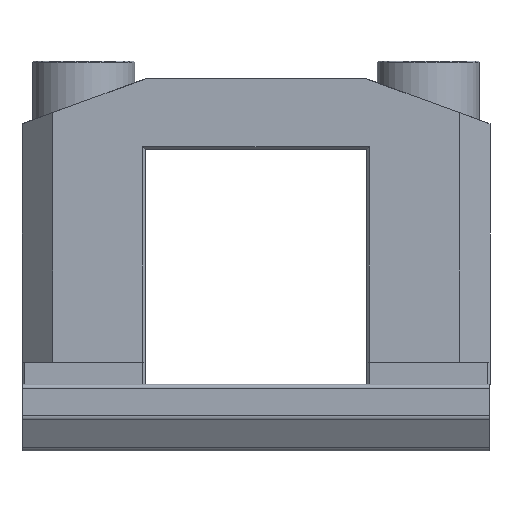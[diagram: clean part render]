
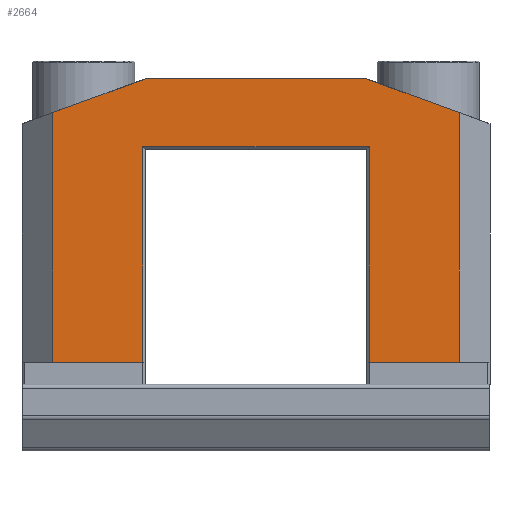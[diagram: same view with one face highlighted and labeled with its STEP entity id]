
A CAD part, front view. The second image highlights one B-rep face of the part: STEP entity #2664.
In plain terms, the highlighted planar face has unit normal (0, -1, 0).
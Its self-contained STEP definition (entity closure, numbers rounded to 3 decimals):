
#137 = EDGE_CURVE ( 'NONE', #8458, #3501, #10034, .T. ) ;
#756 = LINE ( 'NONE', #2490, #2122 ) ;
#931 = DIRECTION ( 'NONE',  ( 0., 0., -1. ) ) ;
#975 = LINE ( 'NONE', #9175, #9149 ) ;
#1197 = ORIENTED_EDGE ( 'NONE', *, *, #6299, .T. ) ;
#1372 = ORIENTED_EDGE ( 'NONE', *, *, #4834, .T. ) ;
#1387 = EDGE_CURVE ( 'NONE', #6551, #5615, #2043, .T. ) ;
#1464 = LINE ( 'NONE', #7890, #2940 ) ;
#1470 = VECTOR ( 'NONE', #2862, 1000. ) ;
#1513 = VERTEX_POINT ( 'NONE', #8638 ) ;
#1517 = CARTESIAN_POINT ( 'NONE',  ( -17.271, 22.779, -10.6 ) ) ;
#1524 = CARTESIAN_POINT ( 'NONE',  ( -17.271, 22.779, 6.9 ) ) ;
#1605 = DIRECTION ( 'NONE',  ( 0., 0., 1. ) ) ;
#1666 = CARTESIAN_POINT ( 'NONE',  ( -35.471, 22.779, 12.4 ) ) ;
#1723 = EDGE_CURVE ( 'NONE', #7347, #2591, #4457, .T. ) ;
#1834 = CARTESIAN_POINT ( 'NONE',  ( 0., 22.779, 0. ) ) ;
#1984 = LINE ( 'NONE', #6376, #5804 ) ;
#1995 = EDGE_CURVE ( 'NONE', #6551, #1513, #1984, .T. ) ;
#2043 = LINE ( 'NONE', #5526, #3883 ) ;
#2122 = VECTOR ( 'NONE', #8725, 1000. ) ;
#2465 = LINE ( 'NONE', #6977, #4942 ) ;
#2486 = EDGE_CURVE ( 'NONE', #10049, #5615, #2465, .T. ) ;
#2490 = CARTESIAN_POINT ( 'NONE',  ( -17.471, 22.779, 6.9 ) ) ;
#2591 = VERTEX_POINT ( 'NONE', #1666 ) ;
#2664 = ADVANCED_FACE ( 'NONE', ( #9898 ), #4937, .T. ) ;
#2735 = ORIENTED_EDGE ( 'NONE', *, *, #1723, .T. ) ;
#2862 = DIRECTION ( 'NONE',  ( -1., 0., 0. ) ) ;
#2940 = VECTOR ( 'NONE', #1605, 1000. ) ;
#3261 = EDGE_CURVE ( 'NONE', #8982, #7347, #975, .T. ) ;
#3270 = CARTESIAN_POINT ( 'NONE',  ( -9.971, 22.779, -10.6 ) ) ;
#3293 = EDGE_CURVE ( 'NONE', #7561, #3501, #8260, .T. ) ;
#3382 = DIRECTION ( 'NONE',  ( 0., 0., -1. ) ) ;
#3501 = VERTEX_POINT ( 'NONE', #1517 ) ;
#3615 = CARTESIAN_POINT ( 'NONE',  ( -42.971, 22.779, -10.6 ) ) ;
#3883 = VECTOR ( 'NONE', #7826, 1000. ) ;
#3895 = CARTESIAN_POINT ( 'NONE',  ( -9.971, 22.779, 9.67 ) ) ;
#3986 = DIRECTION ( 'NONE',  ( -0.94, 0., -0.342 ) ) ;
#4196 = EDGE_CURVE ( 'NONE', #7561, #8982, #1464, .T. ) ;
#4267 = LINE ( 'NONE', #6295, #5495 ) ;
#4457 = LINE ( 'NONE', #7471, #7038 ) ;
#4625 = CARTESIAN_POINT ( 'NONE',  ( -17.471, 22.779, 12.4 ) ) ;
#4834 = EDGE_CURVE ( 'NONE', #1513, #8458, #756, .T. ) ;
#4937 = PLANE ( 'NONE',  #7676 ) ;
#4942 = VECTOR ( 'NONE', #7795, 1000. ) ;
#5210 = ORIENTED_EDGE ( 'NONE', *, *, #1387, .F. ) ;
#5495 = VECTOR ( 'NONE', #3986, 1000. ) ;
#5526 = CARTESIAN_POINT ( 'NONE',  ( -7.47, 22.779, -10.6 ) ) ;
#5615 = VERTEX_POINT ( 'NONE', #3615 ) ;
#5661 = CARTESIAN_POINT ( 'NONE',  ( -17.271, 22.779, -10.6 ) ) ;
#5804 = VECTOR ( 'NONE', #7884, 1000. ) ;
#6295 = CARTESIAN_POINT ( 'NONE',  ( -35.471, 22.779, 12.4 ) ) ;
#6299 = EDGE_CURVE ( 'NONE', #2591, #10049, #4267, .T. ) ;
#6376 = CARTESIAN_POINT ( 'NONE',  ( -35.671, 22.779, 6.7 ) ) ;
#6551 = VERTEX_POINT ( 'NONE', #9080 ) ;
#6933 = ORIENTED_EDGE ( 'NONE', *, *, #2486, .T. ) ;
#6977 = CARTESIAN_POINT ( 'NONE',  ( -42.971, 22.779, 0. ) ) ;
#7038 = VECTOR ( 'NONE', #9854, 1000. ) ;
#7347 = VERTEX_POINT ( 'NONE', #4625 ) ;
#7471 = CARTESIAN_POINT ( 'NONE',  ( -17.471, 22.779, 12.4 ) ) ;
#7553 = DIRECTION ( 'NONE',  ( -0.94, 0., 0.342 ) ) ;
#7561 = VERTEX_POINT ( 'NONE', #3270 ) ;
#7623 = CARTESIAN_POINT ( 'NONE',  ( -7.471, 22.779, -10.6 ) ) ;
#7676 = AXIS2_PLACEMENT_3D ( 'NONE', #1834, #9028, #3382 ) ;
#7793 = ORIENTED_EDGE ( 'NONE', *, *, #3261, .T. ) ;
#7795 = DIRECTION ( 'NONE',  ( 0., 0., -1. ) ) ;
#7826 = DIRECTION ( 'NONE',  ( -1., 0., 0. ) ) ;
#7848 = EDGE_LOOP ( 'NONE', ( #1197, #6933, #5210, #8295, #1372, #9105, #8722, #8299, #7793, #2735 ) ) ;
#7884 = DIRECTION ( 'NONE',  ( 0., 0., 1. ) ) ;
#7890 = CARTESIAN_POINT ( 'NONE',  ( -9.971, 22.779, 0. ) ) ;
#8260 = LINE ( 'NONE', #7623, #1470 ) ;
#8295 = ORIENTED_EDGE ( 'NONE', *, *, #1995, .T. ) ;
#8299 = ORIENTED_EDGE ( 'NONE', *, *, #4196, .T. ) ;
#8458 = VERTEX_POINT ( 'NONE', #1524 ) ;
#8638 = CARTESIAN_POINT ( 'NONE',  ( -35.671, 22.779, 6.9 ) ) ;
#8722 = ORIENTED_EDGE ( 'NONE', *, *, #3293, .F. ) ;
#8725 = DIRECTION ( 'NONE',  ( 1., 0., 0. ) ) ;
#8982 = VERTEX_POINT ( 'NONE', #3895 ) ;
#9028 = DIRECTION ( 'NONE',  ( 0., -1., 0. ) ) ;
#9080 = CARTESIAN_POINT ( 'NONE',  ( -35.671, 22.779, -10.6 ) ) ;
#9105 = ORIENTED_EDGE ( 'NONE', *, *, #137, .T. ) ;
#9149 = VECTOR ( 'NONE', #7553, 1000. ) ;
#9175 = CARTESIAN_POINT ( 'NONE',  ( -7.471, 22.779, 8.76 ) ) ;
#9240 = CARTESIAN_POINT ( 'NONE',  ( -42.971, 22.779, 9.67 ) ) ;
#9854 = DIRECTION ( 'NONE',  ( -1., 0., 0. ) ) ;
#9898 = FACE_OUTER_BOUND ( 'NONE', #7848, .T. ) ;
#9918 = VECTOR ( 'NONE', #931, 1000. ) ;
#10034 = LINE ( 'NONE', #5661, #9918 ) ;
#10049 = VERTEX_POINT ( 'NONE', #9240 ) ;
